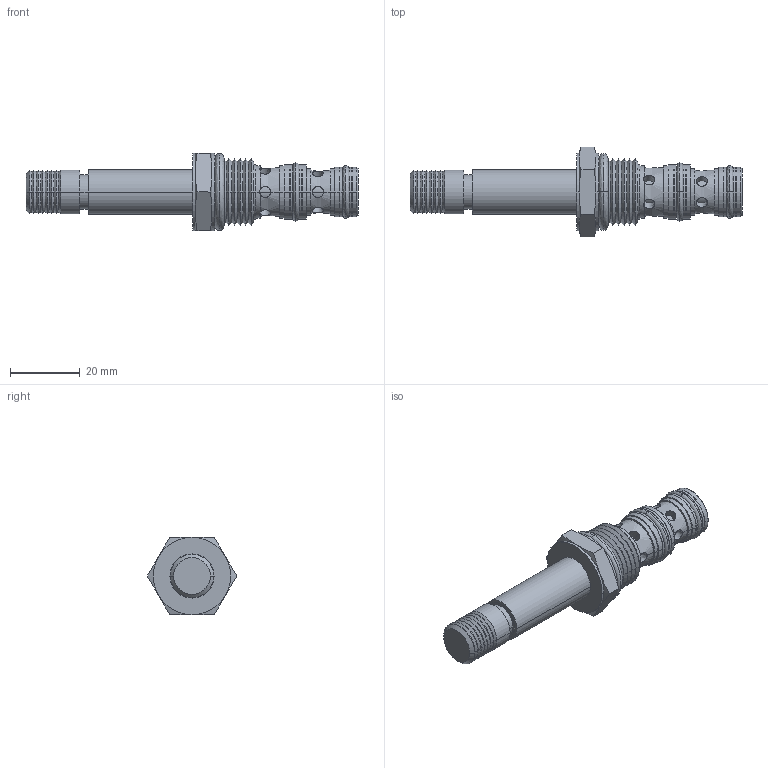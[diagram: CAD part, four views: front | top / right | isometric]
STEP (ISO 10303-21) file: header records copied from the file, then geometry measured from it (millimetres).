
FILE_DESCRIPTION((''),'2;1');
FILE_NAME('U:\Solid model CD\Solid model full\Solenoid\STEP\PPS3A00-3D Full.stp','2008-06-23T11:35:54',('Dan'),(''),'Autodesk Inventor 9','Autodesk Inventor 9','');
FILE_SCHEMA(('AUTOMOTIVE_DESIGN { 1 0 10303 214 1 1 1 1 }'));
Length unit declared in the file: inch
Products named in the file (9): PPS3A00-3D Full; PPS3A00-3D Full1; PPS3A00-3D Full2; PPS3A00-3D Full3; PPS3A00-3D Full4; PPS3A00-3D Full5; PPS3A00-3D Full6; PPS3A00-3D Full7; PPS3A00-3D Full8
Assembly tree (8 placements, depth 2):
  PPS3A00-3D Full
    PPS3A00-3D Full1
    PPS3A00-3D Full2
    PPS3A00-3D Full3
    PPS3A00-3D Full4
    PPS3A00-3D Full5
    PPS3A00-3D Full6
    PPS3A00-3D Full7
    PPS3A00-3D Full8
Bounding box: 95.31 x 25.66 x 22.23 mm (x, y, z)
Volume: 15645.5 mm3; surface area: 8079 mm2
Topology: 8 solids, 8 shells, 225 faces, 497 edges, 305 vertices
Faces by surface type: bspline 206, cylinder 16, cone 2, plane 1
Entity records: 9760 total; most frequent: CARTESIAN_POINT 5342, ORIENTED_EDGE 994, DIRECTION 698, EDGE_CURVE 497, VERTEX_POINT 305, AXIS2_PLACEMENT_3D 267, EDGE_LOOP 256, CIRCLE 231
